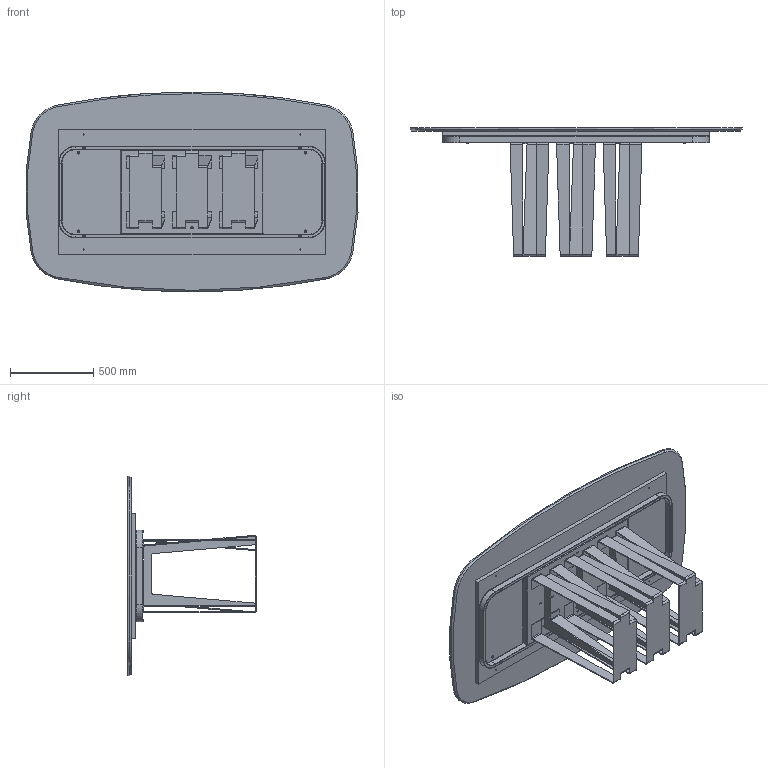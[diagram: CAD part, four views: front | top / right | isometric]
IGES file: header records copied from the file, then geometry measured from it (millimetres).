
Start section: SolidWorks IGES file using analytic representation for surfaces
Global section: file name: Y:\eforma\TECNICO\SOLIDWORKS\E-FORMA\1-TAVOLI\NARCISO\02 parts\NA41M.IGS; native system: SolidWorks 2022; preprocessor: SolidWorks 2022; author: eforma.tech; date: 240807.164101; units: millimetre
Bounding box: 1992.14 x 770 x 1200 mm (x, y, z)
Volume: 85034708.6 mm3; surface area: 11887459.3 mm2
Topology: 27 solids, 27 shells, 1167 faces, 2859 edges, 1721 vertices
Faces by surface type: plane 583, revolution 548, bspline 36
